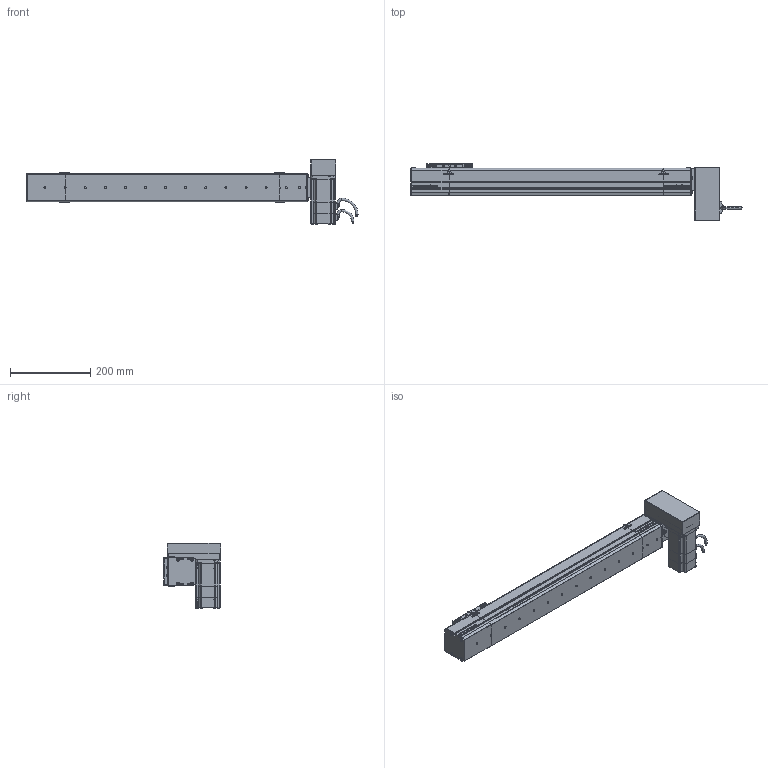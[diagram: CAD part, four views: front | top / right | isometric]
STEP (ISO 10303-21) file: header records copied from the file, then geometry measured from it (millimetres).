
FILE_DESCRIPTION (( 'STEP AP214' ), '1' );
FILE_NAME ('S07 CBN LU S600.STEP', '2010-06-29T09:51:33', ( 'Conseil Régional Haute-Normandie' ), ( 'Conseil Régional Haute-Normandie' ), 'SwSTEP 2.0', 'SolidWorks 2010', '' );
FILE_SCHEMA (( 'AUTOMOTIVE_DESIGN' ));
Length unit declared in the file: millimetre
Products named in the file (31): P1_Default; P3 90A_Default; P2 90A_Default; Corp S07 S600_Default; P4_Default; Conecteur 60BLDC_Default; VisM3_Default; Conecteur2 60BLDC_Default; Axe 60BLDC_Default; vis M5 L8_Default; vis M5 L15_Default; plaque de serrage Tail_Default; Plaque de bout Tail_Default; support chariot_Default; chariot_Default; Chariot S07_Default; Couvercle Tail_Default; Corp Tail_Default; Tail S07 Tail_Default; Couvercle S07 S600_Default; S07 CBN LU S600; Plaque de bout LU_Default; Corp LU_Default; Head LU_Default; Couvercle LU_Default; Cache Support Moteur LU_Default; plaque de serrage LU_Default; 60BLDC90A-640_Default; Support Moteur LU_Default; Rondelle de Serrage LU_Default
Assembly tree (71 placements, depth 4):
  S07 CBN LU S600
    Head LU_Default
      Corp LU_Default
      vis M5 L15_Default  x16
      Rondelle de Serrage LU_Default  x3
      Cache Support Moteur LU_Default
      Support Moteur LU_Default
      Couvercle LU_Default
      Plaque de bout LU_Default
      60BLDC90A-640_Default
        Conecteur 60BLDC_Default
        VisM3_Default  x12
        P1_Default
        P4_Default
        Axe 60BLDC_Default
        P3 90A_Default
        P2 90A_Default
        Conecteur2 60BLDC_Default
      plaque de serrage LU_Default
    Tail S07 Tail_Default
      vis M5 L15_Default  x6
      Corp Tail_Default
      Couvercle Tail_Default
      Plaque de bout Tail_Default
      plaque de serrage Tail_Default
    Chariot S07_Default
      vis M5 L8_Default  x8
      support chariot_Default
      chariot_Default
    Corp S07 S600_Default
      Corp S07 S600_Default
      Couvercle S07 S600_Default
Bounding box: 825.7 x 142 x 162 mm (x, y, z)
Volume: 4262648.9 mm3; surface area: 592241.4 mm2
Topology: 108 solids, 108 shells, 3886 faces, 9578 edges, 6164 vertices
Faces by surface type: plane 2248, bspline 756, cylinder 671, torus 112, cone 95, sphere 4
Entity records: 153193 total; most frequent: CARTESIAN_POINT 79565, ORIENTED_EDGE 14676, DIRECTION 10931, EDGE_CURVE 7338, VERTEX_POINT 4849, LINE 4769, VECTOR 4769, EDGE_LOOP 3141
